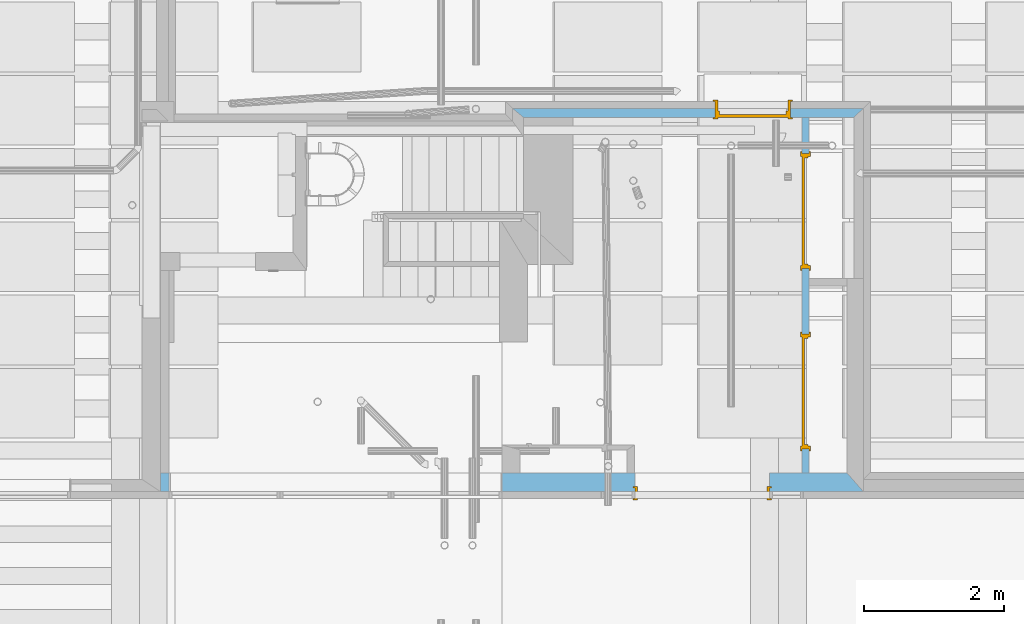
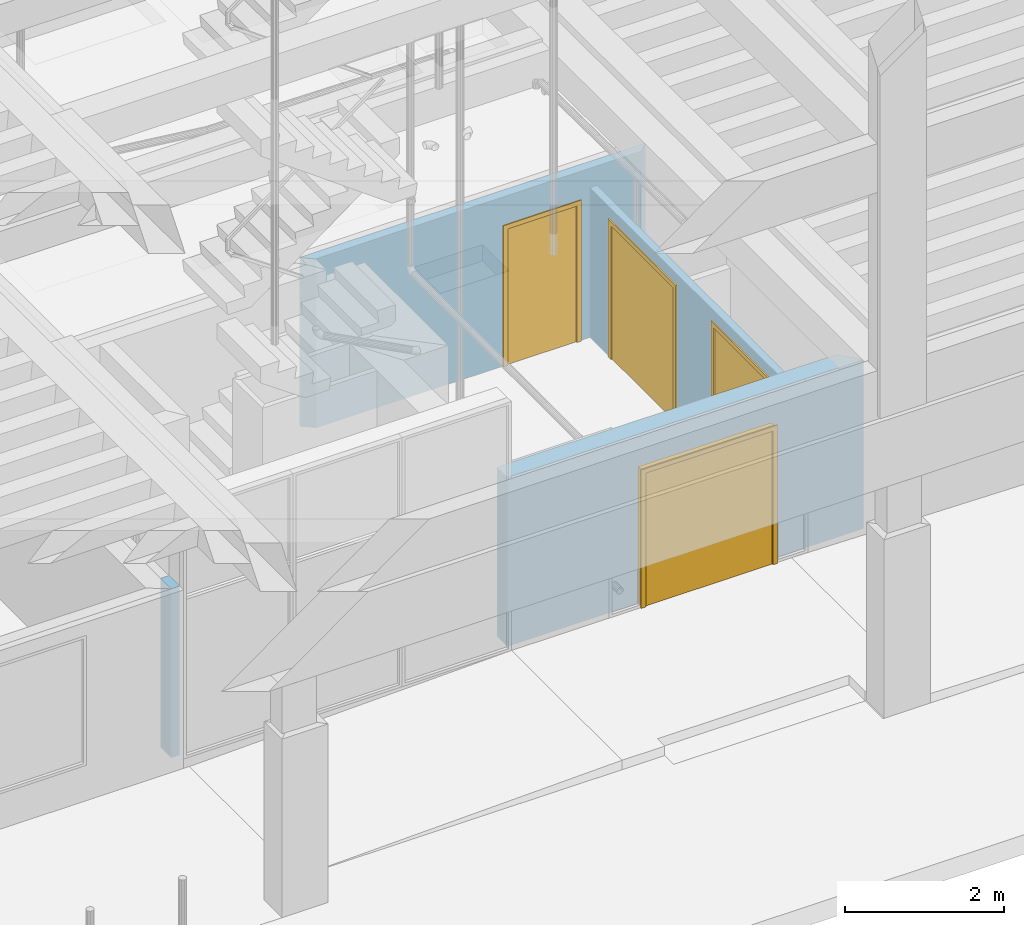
# One storey, part 23 of 106: 4 doors, 5 openings, plus 3 elements that do not belong to this part.
"""IFC2X3 building model written with IfcOpenShell, lengths in metres."""

from ifc_helpers import new_model, entity, si_unit, converted_unit, derived_unit, money_unit, direction, frame, frame_2d, origin_with_axes, place, context, subcontext, project, spatial, polyline, rectangle, outline, extrude, faceted_brep, material, layer, layer_set, layer_usage, type_object, element, fill, save


model = new_model("IFC2X3")

# Units and contexts
model_context = context("Model", 3, precision=1e-05, world=origin_with_axes(), true_north=direction((0.0, 1.0)))
body_context = subcontext(model_context, "Body", "Model", "MODEL_VIEW", scale=1.0)
ifc_project = project(units=[si_unit("LENGTHUNIT", "METRE"), si_unit("AREAUNIT", "SQUARE_METRE"), si_unit("VOLUMEUNIT", "CUBIC_METRE"), si_unit("ABSORBEDDOSEUNIT", "GRAY"), si_unit("AMOUNTOFSUBSTANCEUNIT", "MOLE"), si_unit("DOSEEQUIVALENTUNIT", "SIEVERT"), si_unit("ELECTRICCAPACITANCEUNIT", "FARAD"), si_unit("ELECTRICCHARGEUNIT", "COULOMB"), si_unit("ELECTRICCONDUCTANCEUNIT", "SIEMENS"), si_unit("ELECTRICCURRENTUNIT", "AMPERE"), si_unit("ELECTRICRESISTANCEUNIT", "OHM"), si_unit("ELECTRICVOLTAGEUNIT", "VOLT"), si_unit("ENERGYUNIT", "JOULE"), si_unit("FORCEUNIT", "NEWTON"), si_unit("FREQUENCYUNIT", "HERTZ"), si_unit("ILLUMINANCEUNIT", "LUX"), si_unit("INDUCTANCEUNIT", "HENRY"), si_unit("LUMINOUSFLUXUNIT", "LUMEN"), si_unit("LUMINOUSINTENSITYUNIT", "CANDELA"), si_unit("MAGNETICFLUXDENSITYUNIT", "TESLA"), si_unit("MAGNETICFLUXUNIT", "WEBER"), si_unit("MASSUNIT", "GRAM"), converted_unit("PLANEANGLEUNIT", "degree", entity("IfcReal", 0.0174532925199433), si_unit("PLANEANGLEUNIT", "RADIAN"), dimensions=[0, 0, 0, 0, 0, 0, 0]), si_unit("POWERUNIT", "WATT"), si_unit("PRESSUREUNIT", "PASCAL"), si_unit("RADIOACTIVITYUNIT", "BECQUEREL"), si_unit("SOLIDANGLEUNIT", "STERADIAN"), si_unit("THERMODYNAMICTEMPERATUREUNIT", "KELVIN"), si_unit("TIMEUNIT", "SECOND"), derived_unit("ACCELERATIONUNIT", [(si_unit("LENGTHUNIT", "METRE"), 1), (si_unit("TIMEUNIT", "SECOND"), -2)]), derived_unit("ANGULARVELOCITYUNIT", [(converted_unit("PLANEANGLEUNIT", "degree", entity("IfcReal", 0.0174532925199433), si_unit("PLANEANGLEUNIT", "RADIAN"), dimensions=[0, 0, 0, 0, 0, 0, 0]), 1), (si_unit("TIMEUNIT", "SECOND"), -1)]), derived_unit("CURVATUREUNIT", [(converted_unit("PLANEANGLEUNIT", "degree", entity("IfcReal", 0.0174532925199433), si_unit("PLANEANGLEUNIT", "RADIAN"), dimensions=[0, 0, 0, 0, 0, 0, 0]), 1), (si_unit("LENGTHUNIT", "METRE"), -1)]), derived_unit("DYNAMICVISCOSITYUNIT", [(si_unit("PRESSUREUNIT", "PASCAL"), 1), (si_unit("TIMEUNIT", "SECOND"), 1)]), derived_unit("HEATFLUXDENSITYUNIT", [(si_unit("POWERUNIT", "WATT"), 1), (si_unit("LENGTHUNIT", "METRE"), -2)]), derived_unit("HEATINGVALUEUNIT", [(si_unit("ENERGYUNIT", "JOULE"), 1), (si_unit("MASSUNIT", "GRAM"), -1)]), derived_unit("INTEGERCOUNTRATEUNIT", [(si_unit("TIMEUNIT", "SECOND"), -1)]), derived_unit("IONCONCENTRATIONUNIT", [(si_unit("MASSUNIT", "GRAM"), 1), (si_unit("VOLUMEUNIT", "CUBIC_METRE"), -1)]), derived_unit("ISOTHERMALMOISTURECAPACITYUNIT", [(si_unit("VOLUMEUNIT", "CUBIC_METRE"), 1), (si_unit("MASSUNIT", "GRAM"), -1)]), derived_unit("KINEMATICVISCOSITYUNIT", [(si_unit("AREAUNIT", "SQUARE_METRE"), 1), (si_unit("TIMEUNIT", "SECOND"), -1)]), derived_unit("LINEARFORCEUNIT", [(si_unit("FORCEUNIT", "NEWTON"), 1), (si_unit("LENGTHUNIT", "METRE"), -1)]), derived_unit("LINEARMOMENTUNIT", [(si_unit("FORCEUNIT", "NEWTON"), 1), (si_unit("LENGTHUNIT", "METRE"), -1)]), derived_unit("LINEARSTIFFNESSUNIT", [(si_unit("FORCEUNIT", "NEWTON"), 1), (si_unit("LENGTHUNIT", "METRE"), -1)]), derived_unit("LINEARVELOCITYUNIT", [(si_unit("LENGTHUNIT", "METRE"), 1), (si_unit("TIMEUNIT", "SECOND"), -1)]), derived_unit("LUMINOUSINTENSITYDISTRIBUTIONUNIT", [(si_unit("LUMINOUSINTENSITYUNIT", "CANDELA"), 1), (si_unit("LUMINOUSFLUXUNIT", "LUMEN"), -1)]), derived_unit("MASSDENSITYUNIT", [(si_unit("MASSUNIT", "GRAM"), 1), (si_unit("VOLUMEUNIT", "CUBIC_METRE"), -1)]), derived_unit("MASSFLOWRATEUNIT", [(si_unit("MASSUNIT", "GRAM"), 1), (si_unit("TIMEUNIT", "SECOND"), -1)]), derived_unit("MASSPERLENGTHUNIT", [(si_unit("MASSUNIT", "GRAM"), 1), (si_unit("LENGTHUNIT", "METRE"), -1)]), derived_unit("MODULUSOFELASTICITYUNIT", [(si_unit("FORCEUNIT", "NEWTON"), 1), (si_unit("AREAUNIT", "SQUARE_METRE"), -1)]), derived_unit("MODULUSOFLINEARSUBGRADEREACTIONUNIT", [(si_unit("FORCEUNIT", "NEWTON"), 1), (si_unit("LENGTHUNIT", "METRE"), -2)]), derived_unit("MODULUSOFROTATIONALSUBGRADEREACTIONUNIT", [(si_unit("FORCEUNIT", "NEWTON"), 1), (si_unit("LENGTHUNIT", "METRE"), 1)]), derived_unit("MODULUSOFSUBGRADEREACTIONUNIT", [(si_unit("FORCEUNIT", "NEWTON"), 1), (si_unit("VOLUMEUNIT", "CUBIC_METRE"), -1)]), derived_unit("MOISTUREDIFFUSIVITYUNIT", [(si_unit("VOLUMEUNIT", "CUBIC_METRE"), 1), (si_unit("TIMEUNIT", "SECOND"), -1)]), derived_unit("MOLECULARWEIGHTUNIT", [(si_unit("MASSUNIT", "GRAM"), 1), (si_unit("AMOUNTOFSUBSTANCEUNIT", "MOLE"), -1)]), derived_unit("PLANARFORCEUNIT", [(si_unit("FORCEUNIT", "NEWTON"), 1), (si_unit("LENGTHUNIT", "METRE"), -2)]), derived_unit("ROTATIONALFREQUENCYUNIT", [(si_unit("TIMEUNIT", "SECOND"), -1)]), derived_unit("ROTATIONALMASSUNIT", [(si_unit("MASSUNIT", "GRAM"), 1), (si_unit("LENGTHUNIT", "METRE"), 2)]), derived_unit("ROTATIONALSTIFFNESSUNIT", [(si_unit("FORCEUNIT", "NEWTON"), 1), (si_unit("LENGTHUNIT", "METRE"), 1), (converted_unit("PLANEANGLEUNIT", "degree", entity("IfcReal", 0.0174532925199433), si_unit("PLANEANGLEUNIT", "RADIAN"), dimensions=[0, 0, 0, 0, 0, 0, 0]), -1)]), derived_unit("SECTIONAREAINTEGRALUNIT", [(si_unit("LENGTHUNIT", "METRE"), 5)]), derived_unit("SECTIONMODULUSUNIT", [(si_unit("LENGTHUNIT", "METRE"), 3)]), derived_unit("SHEARMODULUSUNIT", [(si_unit("FORCEUNIT", "NEWTON"), 1), (si_unit("AREAUNIT", "SQUARE_METRE"), -1)]), derived_unit("SOUNDPOWERUNIT", [(si_unit("ENERGYUNIT", "JOULE"), 1), (si_unit("TIMEUNIT", "SECOND"), -1)]), derived_unit("SPECIFICHEATCAPACITYUNIT", [(si_unit("FORCEUNIT", "NEWTON"), 1), (si_unit("MASSUNIT", "GRAM"), -1), (si_unit("THERMODYNAMICTEMPERATUREUNIT", "KELVIN"), -1)]), derived_unit("TEMPERATUREGRADIENTUNIT", [(si_unit("THERMODYNAMICTEMPERATUREUNIT", "KELVIN"), 1), (si_unit("LENGTHUNIT", "METRE"), -1)]), derived_unit("THERMALADMITTANCEUNIT", [(si_unit("POWERUNIT", "WATT"), 1), (si_unit("AREAUNIT", "SQUARE_METRE"), -1), (si_unit("THERMODYNAMICTEMPERATUREUNIT", "KELVIN"), -1)]), derived_unit("THERMALCONDUCTANCEUNIT", [(si_unit("POWERUNIT", "WATT"), 1), (si_unit("LENGTHUNIT", "METRE"), -1), (si_unit("THERMODYNAMICTEMPERATUREUNIT", "KELVIN"), -1)]), derived_unit("THERMALEXPANSIONCOEFFICIENTUNIT", [(si_unit("THERMODYNAMICTEMPERATUREUNIT", "KELVIN"), -1)]), derived_unit("THERMALRESISTANCEUNIT", [(si_unit("AREAUNIT", "SQUARE_METRE"), 1), (si_unit("POWERUNIT", "WATT"), -1)]), derived_unit("THERMALTRANSMITTANCEUNIT", [(si_unit("POWERUNIT", "WATT"), 1), (si_unit("AREAUNIT", "SQUARE_METRE"), -1), (si_unit("THERMODYNAMICTEMPERATUREUNIT", "KELVIN"), -1)]), derived_unit("TORQUEUNIT", [(si_unit("FORCEUNIT", "NEWTON"), 1), (si_unit("LENGTHUNIT", "METRE"), 1)]), derived_unit("VAPORPERMEABILITYUNIT", [(si_unit("MASSUNIT", "GRAM"), 1), (si_unit("TIMEUNIT", "SECOND"), -1)]), derived_unit("VOLUMETRICFLOWRATEUNIT", [(si_unit("VOLUMEUNIT", "CUBIC_METRE"), 1), (si_unit("TIMEUNIT", "SECOND"), -1)]), derived_unit("WARPINGCONSTANTUNIT", [(si_unit("LENGTHUNIT", "METRE"), 6)]), derived_unit("WARPINGMOMENTUNIT", [(si_unit("FORCEUNIT", "NEWTON"), 1), (si_unit("LENGTHUNIT", "METRE"), 2)]), money_unit("GBP")], contexts=[model_context])

# Site, building, storey
site_placement = place(None, origin_with_axes())
site = spatial("IfcSite", under=ifc_project, at=site_placement, Name="Site", CompositionType="ELEMENT")
building_placement = place(site_placement, origin_with_axes())
building = spatial("IfcBuilding", under=site, at=building_placement, Name="Building01", CompositionType="ELEMENT")
storey_placement = place(building_placement, origin_with_axes())
storey = spatial("IfcBuildingStorey", under=building, at=storey_placement, Name="GF", CompositionType="ELEMENT", Elevation=0.0)

# Wall, openings
ifc_material_1 = material(Name="A_BSUK_WallsExternal_Block")
ifc_layer_1 = layer(ifc_material_1, 0.265, ventilated=False)
ifc_layer_set_1 = layer_set([ifc_layer_1])
ifc_layer_usage_1 = layer_usage(ifc_layer_set_1, "AXIS2", "POSITIVE", 0.0)
wall_type_1 = type_object("IfcWallType", Name="A-Walls-ExternalBlock", PredefinedType="NOTDEFINED")
wall_1_placement = place(storey_placement, frame((19.069772, 3.823962, 0.0), z_axis=(0.0, 0.0, 1.0), x_axis=(-1.0, 0.0, 0.0)))
wall_1 = element("IfcWallStandardCase", 1, at=wall_1_placement, inside=storey, type_object=wall_type_1, material=ifc_layer_usage_1, Name="A-Walls-ExternalBlock", ObjectType="A-Walls-ExternalBlock", context=body_context, shape_type="SweptSolid", body=[
    extrude(outline(polyline([(9.839772, 0.265), (-0.233, 0.265), (0.0, 0.0), (9.839772, 0.0), (9.839772, 0.265)])), origin_with_axes(), (0.0, 0.0, 1.0), 2.6),
])
opening_1_placement = place(wall_1_placement, frame((1.109549, 0.0, 0.0), z_axis=(0.0, 0.0, 1.0), x_axis=(1.0, 0.0, 0.0)))
opening_1 = element("IfcOpeningElement", 2, at=opening_1_placement, cuts=wall_1, Name="Opening", ObjectType="Opening", context=body_context, shape_type="SweptSolid", body=[
    extrude(rectangle(XDim=2.1, YDim=1.934, at=frame_2d((-0.967, 1.05), x_axis=(0.0, -1.0))), frame((0.0, 0.0, 0.0), z_axis=(0.0, 1.0, 0.0), x_axis=(-1.0, 0.0, 0.0)), (0.0, 0.0, 1.0), 0.265),
])
opening_2_placement = place(wall_1_placement, frame((4.945672, 0.0, 0.0), z_axis=(0.0, 0.0, 1.0), x_axis=(1.0, 0.0, 0.0)))
element("IfcOpeningElement", 3, at=opening_2_placement, cuts=wall_1, Name="Opening", ObjectType="Opening", context=body_context, shape_type="SweptSolid", body=[
    extrude(rectangle(XDim=3.83, YDim=4.77, at=frame_2d((-2.385, 1.915), x_axis=(0.0, 1.0))), frame((0.0, 0.0, 0.0), z_axis=(0.0, 1.0, 0.0), x_axis=(-1.0, 0.0, 0.0)), (0.0, 0.0, 1.0), 0.265),
])

# Space
space_1_placement = place(storey_placement, frame((0.665095, 0.0, 0.0), z_axis=(0.0, 0.0, 1.0), x_axis=(1.0, -4.064e-05, 0.0)))
space_1 = spatial("IfcSpace", under=storey, at=space_1_placement, Name="UNDERCROFT (front)", CompositionType="ELEMENT", InteriorOrExteriorSpace="NOTDEFINED")

# Door
ifc_material_2 = material(Name="A_BSUK_Doors")
door_style_1 = type_object("IfcDoorStyle", Name="A-Doors-DoubleFlush", ConstructionType="USERDEFINED", OperationType="DOUBLE_DOOR_SINGLE_SWING", ParameterTakesPrecedence=False, Sizeable=False)
door_1_placement = place(opening_1_placement, frame((0.042, 0.365048, 0.0), z_axis=(0.0, 0.0, 1.0), x_axis=(1.0, 0.0, 0.0)))
door_1 = element("IfcDoor", 4, at=door_1_placement, inside=space_1, type_object=door_style_1, material=ifc_material_2, Name="0.01", ObjectType="A-Doors-DoubleFlush", OverallHeight=2.1, OverallWidth=1.934, context=body_context, shape_type="Brep", body=[
    faceted_brep([(1.85, -0.1714, 0.0), (1.919, -0.1714, 0.0), (1.919, -0.1714, 2.127), (-0.069, -0.1714, 2.127), (-0.069, -0.1714, 0.0), (0.0, -0.1714, 0.0), (0.0, -0.1714, 2.058), (1.85, -0.1714, 2.058), (-0.069, -0.1524, 0.0), (-0.069, -0.1524, 2.127), (1.919, -0.1524, 2.127), (1.919, -0.1524, 0.0), (1.85, 0.019, 0.0), (1.919, 0.019, 0.0), (1.919, 0.0, 0.0), (1.892, 0.0, 0.0), (1.892, -0.1524, 0.0), (1.85, 0.019, 2.058), (0.0, 0.019, 2.058), (0.0, 0.019, 0.0), (-0.069, 0.019, 0.0), (-0.069, 0.019, 2.127), (1.919, 0.019, 2.127), (1.919, 0.0, 2.127), (1.892, -0.1524, 2.1), (1.892, 0.0, 2.1), (-0.042, -0.1524, 2.1), (-0.042, 0.0, 2.1), (-0.042, -0.1524, 0.0), (-0.042, 0.0, 0.0), (-0.069, 0.0, 2.127), (-0.069, 0.0, 0.0)], [[[0, 1, 2, 3, 4, 5, 6, 7]], [[8, 4, 3, 9]], [[10, 2, 1, 11]], [[9, 3, 2, 10]], [[12, 13, 14, 15, 16, 11, 1, 0]], [[7, 17, 12, 0]], [[6, 18, 17, 7]], [[18, 19, 20, 21, 22, 13, 12, 17]], [[5, 19, 18, 6]], [[13, 22, 23, 14]], [[24, 16, 15, 25]], [[26, 24, 25, 27]], [[11, 16, 24, 26, 28, 8, 9, 10]], [[27, 29, 28, 26]], [[25, 15, 14, 23, 30, 31, 29, 27]], [[5, 4, 8, 28, 29, 31, 20, 19]], [[30, 21, 20, 31]], [[23, 22, 21, 30]]]),
    faceted_brep([(0.0, -0.09, 2.058), (0.0, -0.04, 2.058), (0.0, -0.04, 0.0), (0.0, -0.09, 0.0), (1.825, -0.09, 0.0), (1.85, -0.09, 0.0), (1.85, -0.09, 2.058), (0.025, -0.09, 0.0), (0.025, -0.09, 2.033), (1.825, -0.09, 2.033), (1.825, -0.04, 0.0), (1.85, -0.04, 0.0), (1.85, -0.04, 2.058), (0.025, -0.04, 2.033), (0.025, -0.04, 0.0), (1.825, -0.04, 2.033)], [[[0, 1, 2, 3]], [[4, 5, 6, 0, 3, 7, 8, 9]], [[10, 11, 5, 4]], [[6, 12, 1, 0]], [[5, 11, 12, 6]], [[13, 14, 2, 1, 12, 11, 10, 15]], [[7, 14, 13, 8]], [[7, 3, 2, 14]], [[9, 15, 10, 4]], [[8, 13, 15, 9]]]),
    faceted_brep([(1.85, -0.04, 0.0), (1.85, 0.0, 0.0), (1.85, 0.0, 2.058), (1.85, -0.04, 2.058), (0.925, -0.04, 2.058), (0.925, 0.0, 2.058), (0.925, 0.0, 0.0), (0.925, -0.04, 0.0)], [[[0, 1, 2, 3]], [[4, 5, 6, 7]], [[7, 6, 1, 0]], [[3, 4, 7, 0]], [[3, 2, 5, 4]], [[1, 6, 5, 2]]]),
    faceted_brep([(0.925, -0.04, 0.0), (0.925, 0.0, 0.0), (0.925, 0.0, 2.058), (0.925, -0.04, 2.058), (0.0, -0.04, 2.058), (0.0, 0.0, 2.058), (0.0, 0.0, 0.0), (0.0, -0.04, 0.0)], [[[0, 1, 2, 3]], [[4, 5, 6, 7]], [[7, 6, 1, 0]], [[3, 4, 7, 0]], [[3, 2, 5, 4]], [[1, 6, 5, 2]]]),
])

fill(opening_1, door_1)

# Wall, opening
ifc_layer_2 = layer(ifc_material_1, 0.131, ventilated=False)
ifc_layer_set_2 = layer_set([ifc_layer_2])
ifc_layer_usage_2 = layer_usage(ifc_layer_set_2, "AXIS2", "POSITIVE", 0.0)
wall_2_placement = place(storey_placement, frame((14.43135, 8.922145, 0.0), z_axis=(0.0, 0.0, 1.0), x_axis=(1.0, 0.0, 0.0)))
wall_2 = element("IfcWallStandardCase", 5, at=wall_2_placement, inside=storey, type_object=wall_type_1, material=ifc_layer_usage_2, Name="A-Walls-ExternalBlock", ObjectType="A-Walls-ExternalBlock", context=body_context, shape_type="SweptSolid", body=[
    extrude(outline(polyline([(4.871617, 0.131), (-0.159, 0.131), (0.0, 0.0), (4.733617, 0.0), (4.871617, 0.131)])), origin_with_axes(), (0.0, 0.0, 1.0), 2.6),
])
opening_3_placement = place(wall_2_placement, frame((2.745216, 0.0, 0.0), z_axis=(0.0, 0.0, 1.0), x_axis=(1.0, 0.0, 0.0)))
opening_3 = element("IfcOpeningElement", 6, at=opening_3_placement, cuts=wall_2, Name="Opening", ObjectType="Opening", context=body_context, shape_type="SweptSolid", body=[
    extrude(rectangle(XDim=2.142, YDim=1.084, at=frame_2d((-0.542, 1.071), x_axis=(0.0, -1.0))), frame((0.0, 0.0, 0.0), z_axis=(0.0, 1.0, 0.0), x_axis=(-1.0, 0.0, 0.0)), (0.0, 0.0, 1.0), 0.131),
])

# Space
space_2_placement = place(storey_placement, frame((9.419099, 6.725761, 0.0), z_axis=(0.0, 0.0, 1.0), x_axis=(0.0, -1.0, 0.0)))
space_2 = spatial("IfcSpace", under=storey, at=space_2_placement, Name="ENTRANCE", CompositionType="ELEMENT", InteriorOrExteriorSpace="NOTDEFINED")

# Door
door_style_2 = type_object("IfcDoorStyle", Name="A-Doors-SingleFlush", ConstructionType="USERDEFINED", OperationType="SINGLE_SWING_LEFT", ParameterTakesPrecedence=False, Sizeable=False)
door_2_placement = place(opening_3_placement, frame((1.042, -0.000181, 0.0), z_axis=(0.0, 0.0, 1.0), x_axis=(-1.0, 0.0, 0.0)))
door_2 = element("IfcDoor", 7, at=door_2_placement, inside=space_2, type_object=door_style_2, material=ifc_material_2, Name="0.04", ObjectType="A-Doors-SingleFlush", OverallHeight=2.142, OverallWidth=1.084, context=body_context, shape_type="Brep", body=[
    faceted_brep([(0.0, -0.25, 2.1), (1.0, -0.25, 2.1), (1.0, -0.25, 0.0), (1.069, -0.25, 0.0), (1.069, -0.25, 2.169), (-0.069, -0.25, 2.169), (-0.069, -0.25, 0.0), (0.0, -0.25, 0.0), (1.069, -0.231, 2.169), (1.069, -0.231, 0.0), (-0.069, -0.231, 0.0), (-0.069, -0.231, 2.169), (-0.042, -0.231, 0.0), (-0.042, 0.0, 0.0), (-0.069, 0.0, 0.0), (-0.069, 0.019, 0.0), (0.0, 0.019, 0.0), (0.0, 0.019, 2.1), (1.0, 0.019, 2.1), (-0.069, 0.019, 2.169), (1.069, 0.019, 2.169), (1.069, 0.019, 0.0), (1.0, 0.019, 0.0), (-0.069, 0.0, 2.169), (-0.042, 0.0, 2.142), (-0.042, -0.231, 2.142), (1.042, 0.0, 2.142), (1.042, -0.231, 2.142), (1.042, -0.231, 0.0), (1.042, 0.0, 0.0), (1.069, 0.0, 0.0), (1.069, 0.0, 2.169)], [[[0, 1, 2, 3, 4, 5, 6, 7]], [[8, 4, 3, 9]], [[10, 6, 5, 11]], [[11, 5, 4, 8]], [[7, 6, 10, 12, 13, 14, 15, 16]], [[7, 16, 17, 0]], [[0, 17, 18, 1]], [[17, 16, 15, 19, 20, 21, 22, 18]], [[1, 18, 22, 2]], [[14, 23, 19, 15]], [[24, 13, 12, 25]], [[26, 24, 25, 27]], [[11, 8, 9, 28, 27, 25, 12, 10]], [[27, 28, 29, 26]], [[26, 29, 30, 31, 23, 14, 13, 24]], [[22, 21, 30, 29, 28, 9, 3, 2]], [[30, 21, 20, 31]], [[31, 20, 19, 23]]]),
    faceted_brep([(1.0, -0.09, 0.0), (1.0, -0.04, 0.0), (1.0, -0.04, 2.1), (1.0, -0.09, 2.1), (0.025, -0.09, 2.075), (0.975, -0.09, 2.075), (0.975, -0.09, 0.0), (0.0, -0.09, 2.1), (0.0, -0.09, 0.0), (0.025, -0.09, 0.0), (0.0, -0.04, 0.0), (0.025, -0.04, 0.0), (0.0, -0.04, 2.1), (0.025, -0.04, 2.075), (0.975, -0.04, 0.0), (0.975, -0.04, 2.075)], [[[0, 1, 2, 3]], [[4, 5, 6, 0, 3, 7, 8, 9]], [[9, 8, 10, 11]], [[3, 2, 12, 7]], [[7, 12, 10, 8]], [[13, 11, 10, 12, 2, 1, 14, 15]], [[5, 15, 14, 6]], [[14, 1, 0, 6]], [[9, 11, 13, 4]], [[4, 13, 15, 5]]]),
    faceted_brep([(0.0, -0.04, 2.1), (0.0, 0.0, 2.1), (0.0, 0.0, 0.0), (0.0, -0.04, 0.0), (1.0, -0.04, 0.0), (1.0, 0.0, 0.0), (1.0, 0.0, 2.1), (1.0, -0.04, 2.1)], [[[0, 1, 2, 3]], [[4, 5, 6, 7]], [[3, 2, 5, 4]], [[3, 4, 7, 0]], [[7, 6, 1, 0]], [[1, 6, 5, 2]]]),
])

fill(opening_3, door_2)

# Wall, openings, doors
ifc_material_3 = material(Name="A_BSUK_WallsInternal")
ifc_layer_3 = layer(ifc_material_3, 0.103, ventilated=False)
ifc_layer_set_3 = layer_set([ifc_layer_3])
ifc_layer_usage_3 = layer_usage(ifc_layer_set_3, "AXIS2", "POSITIVE", 0.0)
wall_type_2 = type_object("IfcWallType", Name="A-Walls-Internal", PredefinedType="NOTDEFINED")
wall_3_placement = place(storey_placement, frame((18.421562, 8.922145, 0.0), z_axis=(0.0, 0.0, 1.0), x_axis=(0.0, -1.0, 0.0)))
wall_3 = element("IfcWallStandardCase", 8, at=wall_3_placement, inside=storey, type_object=wall_type_2, material=ifc_layer_usage_3, Name="A-Walls-Internal", ObjectType="A-Walls-Internal", context=body_context, shape_type="SweptSolid", body=[
    extrude(rectangle(XDim=5.098183, YDim=0.103, at=frame_2d((2.549092, 0.0515), x_axis=(-1.0, 0.0))), origin_with_axes(), (0.0, 0.0, 1.0), 2.3),
])
opening_4_placement = place(wall_3_placement, frame((0.515284, 0.0, 0.0), z_axis=(0.0, 0.0, 1.0), x_axis=(1.0, 0.0, 0.0)))
opening_4 = element("IfcOpeningElement", 9, at=opening_4_placement, cuts=wall_3, Name="Opening", ObjectType="Opening", context=body_context, shape_type="Brep", body=[
    faceted_brep([(0.0, 0.0, 2.1), (0.0, 0.0, 0.0), (1.649, 0.0, 0.0), (1.649, 0.0, 2.1), (4e-06, 0.103, 0.0), (4e-06, 0.103, 2.1), (1.649004, 0.103, 2.1), (1.649004, 0.103, 0.0)], [[[0, 1, 2, 3]], [[4, 5, 6, 7]], [[1, 4, 7, 2]], [[5, 0, 3, 6]], [[4, 1, 0, 5]], [[6, 3, 2, 7]]]),
])
opening_5_placement = place(wall_3_placement, frame((3.103568, 0.0, 0.0), z_axis=(0.0, 0.0, 1.0), x_axis=(1.0, 0.0, 0.0)))
opening_5 = element("IfcOpeningElement", 10, at=opening_5_placement, cuts=wall_3, Name="Opening", ObjectType="Opening", context=body_context, shape_type="Brep", body=[
    faceted_brep([(0.0, 0.0, 2.1), (0.0, 0.0, 0.0), (1.649, 0.0, 0.0), (1.649, 0.0, 2.1), (4e-06, 0.103, 0.0), (4e-06, 0.103, 2.1), (1.649004, 0.103, 2.1), (1.649004, 0.103, 0.0)], [[[0, 1, 2, 3]], [[4, 5, 6, 7]], [[1, 4, 7, 2]], [[5, 0, 3, 6]], [[4, 1, 0, 5]], [[6, 3, 2, 7]]]),
])
door_style_3 = type_object("IfcDoorStyle", Name="A-Doors-DoubleFlush", ConstructionType="USERDEFINED", OperationType="DOUBLE_DOOR_SINGLE_SWING", ParameterTakesPrecedence=False, Sizeable=False)
door_3_placement = place(opening_4_placement, frame((1.607, -7.8e-05, 0.0), z_axis=(0.0, 0.0, 1.0), x_axis=(-1.0, 3.756e-05, 0.0)))
door_3 = element("IfcDoor", 11, at=door_3_placement, inside=space_2, type_object=door_style_3, material=ifc_material_2, Name="0.06", ObjectType="A-Doors-DoubleFlush", OverallHeight=2.12700000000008, OverallWidth=1.70300000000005, context=body_context, shape_type="Brep", body=[
    faceted_brep([(0.0, -0.122, 2.058), (1.565, -0.122, 2.058), (1.565, -0.122, 0.0), (1.634, -0.122, 0.0), (1.634, -0.122, 2.127), (-0.069, -0.122, 2.127), (-0.069, -0.122, 0.0), (0.0, -0.122, 0.0), (1.634, -0.103, 2.127), (1.634, -0.103, 0.0), (-0.069, -0.103, 0.0), (-0.069, -0.103, 2.127), (-0.042, -0.103, 0.0), (-0.042, 0.0, 0.0), (-0.069, 0.0, 0.0), (-0.069, 0.019, 0.0), (0.0, 0.019, 0.0), (0.0, 0.019, 2.058), (1.565, 0.019, 2.058), (-0.069, 0.019, 2.127), (1.634, 0.019, 2.127), (1.634, 0.019, 0.0), (1.565, 0.019, 0.0), (-0.069, 0.0, 2.127), (-0.042, 0.0, 2.1), (-0.042, -0.103, 2.1), (1.607, 0.0, 2.1), (1.607, -0.103, 2.1), (1.607, -0.103, 0.0), (1.607, 0.0, 0.0), (1.634, 0.0, 0.0), (1.634, 0.0, 2.127)], [[[0, 1, 2, 3, 4, 5, 6, 7]], [[8, 4, 3, 9]], [[10, 6, 5, 11]], [[11, 5, 4, 8]], [[7, 6, 10, 12, 13, 14, 15, 16]], [[7, 16, 17, 0]], [[0, 17, 18, 1]], [[17, 16, 15, 19, 20, 21, 22, 18]], [[1, 18, 22, 2]], [[14, 23, 19, 15]], [[24, 13, 12, 25]], [[26, 24, 25, 27]], [[11, 8, 9, 28, 27, 25, 12, 10]], [[27, 28, 29, 26]], [[26, 29, 30, 31, 23, 14, 13, 24]], [[22, 21, 30, 29, 28, 9, 3, 2]], [[30, 21, 20, 31]], [[31, 20, 19, 23]]]),
    faceted_brep([(1.565, -0.09, 0.0), (1.565, -0.04, 0.0), (1.565, -0.04, 2.058), (1.565, -0.09, 2.058), (0.025, -0.09, 2.033), (1.54, -0.09, 2.033), (1.54, -0.09, 0.0), (0.0, -0.09, 2.058), (0.0, -0.09, 0.0), (0.025, -0.09, 0.0), (0.0, -0.04, 0.0), (0.025, -0.04, 0.0), (0.0, -0.04, 2.058), (0.025, -0.04, 2.033), (1.54, -0.04, 0.0), (1.54, -0.04, 2.033)], [[[0, 1, 2, 3]], [[4, 5, 6, 0, 3, 7, 8, 9]], [[9, 8, 10, 11]], [[3, 2, 12, 7]], [[7, 12, 10, 8]], [[13, 11, 10, 12, 2, 1, 14, 15]], [[5, 15, 14, 6]], [[14, 1, 0, 6]], [[9, 11, 13, 4]], [[4, 13, 15, 5]]]),
    faceted_brep([(0.0, -0.04, 2.058), (0.0, 0.0, 2.058), (0.0, 0.0, 0.0), (0.0, -0.04, 0.0), (0.7825, -0.04, 0.0), (0.7825, 0.0, 0.0), (0.7825, 0.0, 2.058), (0.7825, -0.04, 2.058)], [[[0, 1, 2, 3]], [[4, 5, 6, 7]], [[3, 2, 5, 4]], [[3, 4, 7, 0]], [[7, 6, 1, 0]], [[1, 6, 5, 2]]]),
    faceted_brep([(0.7825, -0.04, 2.058), (0.7825, 0.0, 2.058), (0.7825, 0.0, 0.0), (0.7825, -0.04, 0.0), (1.565, -0.04, 0.0), (1.565, 0.0, 0.0), (1.565, 0.0, 2.058), (1.565, -0.04, 2.058)], [[[0, 1, 2, 3]], [[4, 5, 6, 7]], [[3, 2, 5, 4]], [[3, 4, 7, 0]], [[7, 6, 1, 0]], [[1, 6, 5, 2]]]),
])
fill(opening_4, door_3)
door_4_placement = place(opening_5_placement, frame((1.607, -7.8e-05, 0.0), z_axis=(0.0, 0.0, 1.0), x_axis=(-1.0, 3.756e-05, 0.0)))
door_4 = element("IfcDoor", 12, at=door_4_placement, inside=space_2, type_object=door_style_3, material=ifc_material_2, Name="0.07", ObjectType="A-Doors-DoubleFlush", OverallHeight=2.12700000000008, OverallWidth=1.70300000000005, context=body_context, shape_type="Brep", body=[
    faceted_brep([(0.0, -0.122, 2.058), (1.565, -0.122, 2.058), (1.565, -0.122, 0.0), (1.634, -0.122, 0.0), (1.634, -0.122, 2.127), (-0.069, -0.122, 2.127), (-0.069, -0.122, 0.0), (0.0, -0.122, 0.0), (1.634, -0.103, 2.127), (1.634, -0.103, 0.0), (-0.069, -0.103, 0.0), (-0.069, -0.103, 2.127), (-0.042, -0.103, 0.0), (-0.042, 0.0, 0.0), (-0.069, 0.0, 0.0), (-0.069, 0.019, 0.0), (0.0, 0.019, 0.0), (0.0, 0.019, 2.058), (1.565, 0.019, 2.058), (-0.069, 0.019, 2.127), (1.634, 0.019, 2.127), (1.634, 0.019, 0.0), (1.565, 0.019, 0.0), (-0.069, 0.0, 2.127), (-0.042, 0.0, 2.1), (-0.042, -0.103, 2.1), (1.607, 0.0, 2.1), (1.607, -0.103, 2.1), (1.607, -0.103, 0.0), (1.607, 0.0, 0.0), (1.634, 0.0, 0.0), (1.634, 0.0, 2.127)], [[[0, 1, 2, 3, 4, 5, 6, 7]], [[8, 4, 3, 9]], [[10, 6, 5, 11]], [[11, 5, 4, 8]], [[7, 6, 10, 12, 13, 14, 15, 16]], [[7, 16, 17, 0]], [[0, 17, 18, 1]], [[17, 16, 15, 19, 20, 21, 22, 18]], [[1, 18, 22, 2]], [[14, 23, 19, 15]], [[24, 13, 12, 25]], [[26, 24, 25, 27]], [[11, 8, 9, 28, 27, 25, 12, 10]], [[27, 28, 29, 26]], [[26, 29, 30, 31, 23, 14, 13, 24]], [[22, 21, 30, 29, 28, 9, 3, 2]], [[30, 21, 20, 31]], [[31, 20, 19, 23]]]),
    faceted_brep([(1.565, -0.09, 0.0), (1.565, -0.04, 0.0), (1.565, -0.04, 2.058), (1.565, -0.09, 2.058), (0.025, -0.09, 2.033), (1.54, -0.09, 2.033), (1.54, -0.09, 0.0), (0.0, -0.09, 2.058), (0.0, -0.09, 0.0), (0.025, -0.09, 0.0), (0.0, -0.04, 0.0), (0.025, -0.04, 0.0), (0.0, -0.04, 2.058), (0.025, -0.04, 2.033), (1.54, -0.04, 0.0), (1.54, -0.04, 2.033)], [[[0, 1, 2, 3]], [[4, 5, 6, 0, 3, 7, 8, 9]], [[9, 8, 10, 11]], [[3, 2, 12, 7]], [[7, 12, 10, 8]], [[13, 11, 10, 12, 2, 1, 14, 15]], [[5, 15, 14, 6]], [[14, 1, 0, 6]], [[9, 11, 13, 4]], [[4, 13, 15, 5]]]),
    faceted_brep([(0.0, -0.04, 2.058), (0.0, 0.0, 2.058), (0.0, 0.0, 0.0), (0.0, -0.04, 0.0), (0.7825, -0.04, 0.0), (0.7825, 0.0, 0.0), (0.7825, 0.0, 2.058), (0.7825, -0.04, 2.058)], [[[0, 1, 2, 3]], [[4, 5, 6, 7]], [[3, 2, 5, 4]], [[3, 4, 7, 0]], [[7, 6, 1, 0]], [[1, 6, 5, 2]]]),
    faceted_brep([(0.7825, -0.04, 2.058), (0.7825, 0.0, 2.058), (0.7825, 0.0, 0.0), (0.7825, -0.04, 0.0), (1.565, -0.04, 0.0), (1.565, 0.0, 0.0), (1.565, 0.0, 2.058), (1.565, -0.04, 2.058)], [[[0, 1, 2, 3]], [[4, 5, 6, 7]], [[3, 2, 5, 4]], [[3, 4, 7, 0]], [[7, 6, 1, 0]], [[1, 6, 5, 2]]]),
])
fill(opening_5, door_4)

save(model, "model.ifc")
